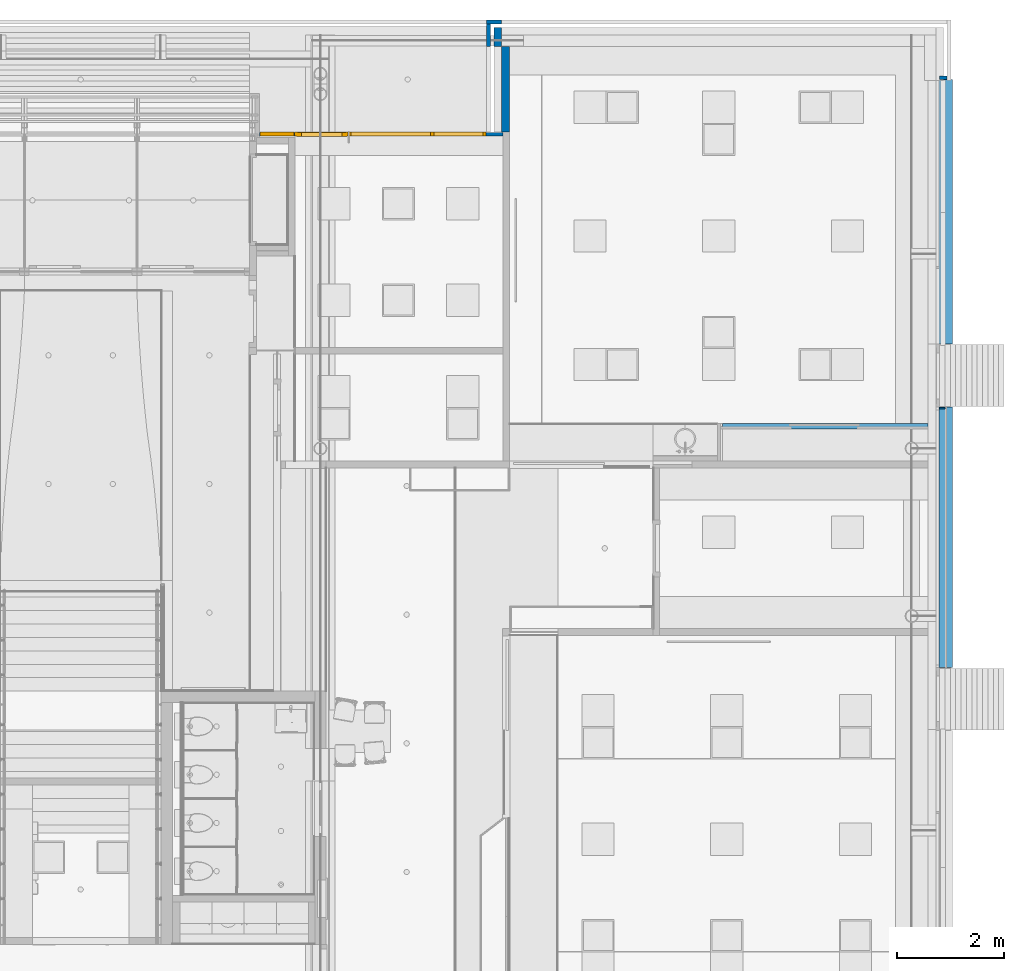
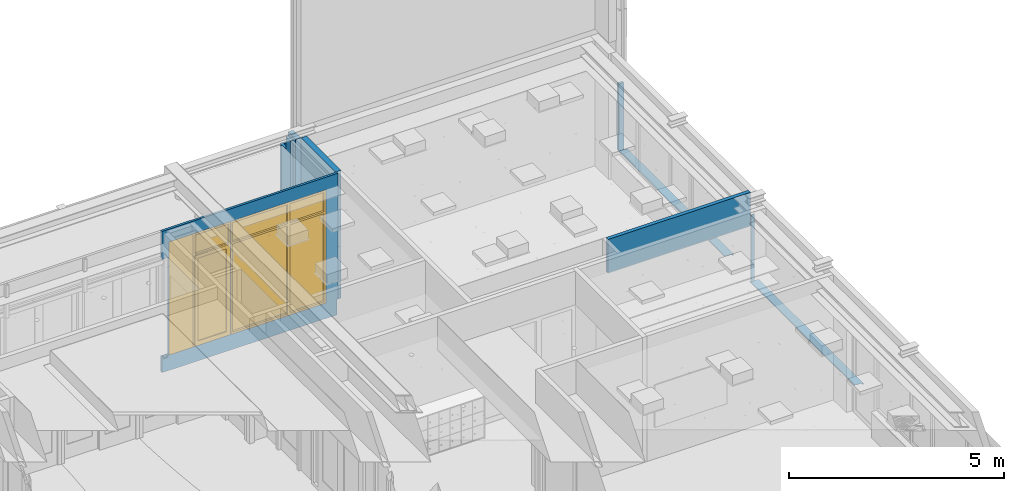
# One storey, part 85 of 347: 10 walls, 3 windows, 3 openings.
"""IFC2X3 building model written with IfcOpenShell, lengths in millimetres."""

from ifc_helpers import new_model, entity, si_unit, converted_unit, derived_unit, money_unit, direction, frame, origin_with_axes, place, context, subcontext, project, spatial, open_shell, faceted_brep, surface_model, material, type_object, element, fill, save


model = new_model("IFC2X3")

# Units and contexts
model_context = context("Model", 3, precision=0.01, world=origin_with_axes(), true_north=direction((0.0, 1.0)))
plan_context = context("Plan", 3, precision=0.01, world=origin_with_axes(), true_north=direction((0.0, 1.0)))
body_context = subcontext(model_context, "Body", "Model", "MODEL_VIEW")
ifc_project = project(units=[si_unit("LENGTHUNIT", "METRE", prefix="MILLI"), si_unit("AREAUNIT", "SQUARE_METRE"), si_unit("VOLUMEUNIT", "CUBIC_METRE"), converted_unit("PLANEANGLEUNIT", "DEGREE", entity("IfcPlaneAngleMeasure", 0.0174532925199), si_unit("PLANEANGLEUNIT", "RADIAN"), dimensions=[0, 0, 0, 0, 0, 0, 0]), money_unit("EUR"), converted_unit("TIMEUNIT", "Year", entity("IfcTimeMeasure", 31556926.0), si_unit("TIMEUNIT", "SECOND"), dimensions=[0, 0, 1, 0, 0, 0, 0]), si_unit("MASSUNIT", "GRAM", prefix="KILO"), si_unit("THERMODYNAMICTEMPERATUREUNIT", "DEGREE_CELSIUS"), si_unit("LUMINOUSINTENSITYUNIT", "LUMEN"), si_unit("ENERGYUNIT", "JOULE", prefix="MEGA"), derived_unit("THERMALCONDUCTANCEUNIT", [(si_unit("POWERUNIT", "WATT"), 1), (si_unit("LENGTHUNIT", "METRE"), -1), (si_unit("THERMODYNAMICTEMPERATUREUNIT", "KELVIN"), -1)]), derived_unit("SPECIFICHEATCAPACITYUNIT", [(si_unit("ENERGYUNIT", "JOULE"), 1), (si_unit("MASSUNIT", "GRAM", prefix="KILO"), -1), (si_unit("THERMODYNAMICTEMPERATUREUNIT", "KELVIN"), -1)]), derived_unit("MASSDENSITYUNIT", [(si_unit("MASSUNIT", "GRAM", prefix="KILO"), 1), (si_unit("VOLUMEUNIT", "CUBIC_METRE"), -1)])], contexts=[model_context, plan_context])

# Site, building, storey
site_placement = place(None, origin_with_axes())
site = spatial("IfcSite", under=ifc_project, at=site_placement, Name="Site", CompositionType="ELEMENT")
building_placement = place(site_placement, origin_with_axes())
building = spatial("IfcBuilding", under=site, at=building_placement, Name="Naam gebouw", CompositionType="ELEMENT")
storey_placement = place(building_placement, origin_with_axes())
storey = spatial("IfcBuildingStorey", under=building, at=storey_placement, Name="begane grond", CompositionType="ELEMENT", Elevation=0.0)

# Wall, openings, windows
ifc_material_1 = material(Name="31 pui/kozijn")
wall_type_1 = type_object("IfcWallType", Name="31 pui/kozijn 62", PredefinedType="NOTDEFINED")
wall_1_placement = place(storey_placement, frame((43225.0, 45153.0, -450.0), z_axis=(0.0, 0.0, 1.0), x_axis=(1.0, 0.0, 0.0)))
wall_1 = element("IfcWall", 1, at=wall_1_placement, inside=storey, type_object=wall_type_1, material=ifc_material_1, Name="21_53 wandtegels keramisch", context=body_context, shape_type="Brep", body=[
    faceted_brep([(4700.0000225, 0.0, 0.0), (4700.0000225, 0.0, 450.0), (4725.0, 0.0, 450.0), (4725.0, 0.0, 4010.0), (0.0, 0.0, 4010.0), (0.0, 0.0, 3215.0), (185.0, 0.0, 3215.0), (185.0, 0.0, 450.0), (160.0, 0.0, 450.0), (160.0, 0.0, 380.0), (5.0, 0.0, 380.0), (0.0, 0.0, 380.0), (0.0, 0.0, 0.0), (1840.00000075, 0.0, 3650.0), (1840.00000075, 0.0, 440.0), (840.0, 0.0, 440.0), (840.0, 0.0, 3650.0), (195.0, 0.0, 3650.0), (830.0, 0.0, 3650.0), (830.0, 0.0, 440.0), (195.0, 0.0, 440.0), (1855.00000075, 0.0, 440.0), (1855.00000075, 0.0, 3650.0), (4409.99991827, 0.0, 3650.0), (4409.99991827, 0.0, 440.0), (4700.0000225, 62.0, 0.0), (4700.0000225, 62.0, 450.0), (4725.0, 62.0, 450.0), (4725.0, 62.0, 4010.0), (0.0, 62.0, 4010.0), (0.0, 62.0, 3215.0), (185.0, 62.0, 3215.0), (185.0, 62.0, 450.0), (0.0, 62.0, 450.0), (0.0, 5.0, 450.0), (40.0, 5.0, 450.0), (40.0, 38.0, 450.0), (160.0, 38.0, 450.0), (160.0, 38.0, 380.0), (40.0, 38.0, 380.0), (40.0, 5.0, 380.0), (0.0, 5.0, 380.0), (0.0, 62.0, 0.0), (1840.00000075, 62.0, 3650.0), (1840.00000075, 62.0, 440.0), (840.0, 62.0, 440.0), (840.0, 62.0, 3650.0), (830.0, 62.0, 3650.0), (195.0, 62.0, 3650.0), (830.0, 62.0, 440.0), (195.0, 62.0, 440.0), (1855.00000075, 62.0, 440.0), (1855.00000075, 62.0, 3650.0), (4409.99991827, 62.0, 3650.0), (4409.99991827, 62.0, 440.0)], [[[0, 1, 2, 3, 4, 5, 6, 7, 8, 9, 10, 11, 12], [13, 14, 15, 16], [17, 18, 19, 20], [21, 22, 23, 24]], [[0, 25, 26, 1]], [[27, 2, 1, 26]], [[27, 28, 3, 2]], [[3, 28, 29, 4]], [[5, 4, 29, 30]], [[31, 6, 5, 30]], [[32, 7, 6, 31]], [[32, 33, 34, 35, 36, 37, 8, 7]], [[38, 9, 8, 37]], [[9, 38, 39, 40, 41, 11, 10]], [[33, 42, 12, 11, 41, 34]], [[0, 12, 42, 25]], [[14, 13, 43, 44]], [[15, 14, 44, 45]], [[16, 15, 45, 46]], [[13, 16, 46, 43]], [[47, 18, 17, 48]], [[49, 19, 18, 47]], [[50, 20, 19, 49]], [[48, 17, 20, 50]], [[51, 52, 22, 21]], [[52, 53, 23, 22]], [[53, 54, 24, 23]], [[54, 51, 21, 24]], [[26, 25, 42, 33, 32, 31, 30, 29, 28, 27], [43, 46, 45, 44], [49, 47, 48, 50], [51, 54, 53, 52]], [[34, 41, 40, 35]], [[39, 36, 35, 40]], [[39, 38, 37, 36]]]),
])
opening_1_placement = place(wall_1_placement, frame((1340.00000038, 0.0, 440.0), z_axis=(0.0, 0.0, 1.0), x_axis=(1.0, 0.0, 0.0)))
opening_1 = element("IfcOpeningElement", 2, at=opening_1_placement, cuts=wall_1, Name="32_merk-AR2", context=body_context, shape_type="Brep", body=[
    faceted_brep([(-500.000000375, -62.0, 0.0), (-500.000000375, -62.0, 3210.0), (-500.000000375, 134.0, 3210.0), (-500.000000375, 134.0, 0.0), (500.000000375, -62.0, 0.0), (500.000000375, -62.0, 3210.0), (500.000000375, 134.0, 3210.0), (500.000000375, 134.0, 0.0)], [[[0, 1, 2, 3]], [[0, 4, 5, 1]], [[1, 5, 6, 2]], [[3, 2, 6, 7]], [[4, 0, 3, 7]], [[5, 4, 7, 6]]]),
])
opening_2_placement = place(wall_1_placement, frame((512.5, 0.0, 440.0), z_axis=(0.0, 0.0, 1.0), x_axis=(1.0, 0.0, 0.0)))
opening_2 = element("IfcOpeningElement", 3, at=opening_2_placement, cuts=wall_1, Name="32_merk-AP", context=body_context, shape_type="Brep", body=[
    faceted_brep([(-317.5, -62.0, 0.0), (-317.5, -62.0, 3210.0), (-317.5, 134.0, 3210.0), (-317.5, 134.0, 0.0), (317.5, -62.0, 0.0), (317.5, -62.0, 3210.0), (317.5, 134.0, 3210.0), (317.5, 134.0, 0.0)], [[[0, 1, 2, 3]], [[0, 4, 5, 1]], [[1, 5, 6, 2]], [[3, 2, 6, 7]], [[4, 0, 3, 7]], [[5, 4, 7, 6]]]),
])
opening_3_placement = place(wall_1_placement, frame((3132.49995951, 0.0, 440.0), z_axis=(0.0, 0.0, 1.0), x_axis=(1.0, 0.0, 0.0)))
opening_3 = element("IfcOpeningElement", 4, at=opening_3_placement, cuts=wall_1, Name="32_merk-AR1", context=body_context, shape_type="Brep", body=[
    faceted_brep([(1277.49995876, 134.0, 0.0), (1277.49995876, 134.0, 3210.0), (1277.49995876, -62.0, 3210.0), (1277.49995876, -62.0, 0.0), (-1277.49995876, 134.0, 0.0), (-1277.49995876, 134.0, 3210.0), (-1277.49995876, -62.0, 3210.0), (-1277.49995876, -62.0, 0.0)], [[[0, 1, 2, 3]], [[0, 4, 5, 1]], [[1, 5, 6, 2]], [[3, 2, 6, 7]], [[4, 0, 3, 7]], [[5, 4, 7, 6]]]),
])
window_style_1 = type_object("IfcWindowStyle", Name="Rmeerkeuze 25", ConstructionType="NOTDEFINED", OperationType="DOUBLE_PANEL_HORIZONTAL", ParameterTakesPrecedence=False, Sizeable=False)
window_1_placement = place(opening_2_placement, frame((317.5, 0.0, 0.0), z_axis=(0.0, 0.0, 1.0), x_axis=(-1.0, 0.0, 0.0)))
window_1 = element("IfcWindow", 5, at=window_1_placement, inside=storey, type_object=window_style_1, Name="32_merk-AP", ObjectType="WINDOW", OverallHeight=3210.0, OverallWidth=635.0, context=body_context, shape_type="Brep", body=[
    faceted_brep([(54.0, -72.0, 2556.0), (54.0, 0.0, 2556.0), (54.0, 0.0, 2610.0), (54.0, -72.0, 2610.0), (54.0, -72.0, 54.0), (54.0, 0.0, 54.0), (0.0, 0.0, 54.0), (0.0, 0.0, 3156.0), (54.0, 0.0, 3156.0), (54.0, -72.0, 3156.0), (0.0, -72.0, 3156.0), (0.0, -72.0, 54.0)], [[[0, 1, 2, 3]], [[4, 5, 1, 0]], [[1, 5, 6, 7, 8, 2]], [[3, 2, 8, 9]], [[0, 3, 9, 10, 11, 4]], [[11, 6, 5, 4]], [[10, 7, 6, 11]], [[9, 8, 7, 10]]]),
    faceted_brep([(581.0, -72.0, 54.0), (581.0, 0.0, 54.0), (635.0, 0.0, 54.0), (635.0, -72.0, 54.0), (581.0, -72.0, 2556.0), (581.0, 0.0, 2556.0), (581.0, 0.0, 2610.0), (581.0, 0.0, 3156.0), (635.0, 0.0, 3156.0), (635.0, -72.0, 3156.0), (581.0, -72.0, 3156.0), (581.0, -72.0, 2610.0)], [[[0, 1, 2, 3]], [[4, 5, 1, 0]], [[1, 5, 6, 7, 8, 2]], [[3, 2, 8, 9]], [[0, 3, 9, 10, 11, 4]], [[11, 6, 5, 4]], [[10, 7, 6, 11]], [[9, 8, 7, 10]]]),
    faceted_brep([(54.0, -72.0, 2610.0), (54.0, 0.0, 2610.0), (54.0, 0.0, 2556.0), (54.0, -72.0, 2556.0), (581.0, -72.0, 2610.0), (581.0, 0.0, 2610.0), (581.0, 0.0, 2556.0), (581.0, -72.0, 2556.0)], [[[0, 1, 2, 3]], [[4, 5, 1, 0]], [[1, 5, 6, 2]], [[3, 2, 6, 7]], [[0, 3, 7, 4]], [[7, 6, 5, 4]]]),
    faceted_brep([(54.0, -72.0, 54.0), (54.0, 0.0, 54.0), (0.0, 0.0, 54.0), (0.0, -72.0, 54.0), (581.0, -72.0, 54.0), (581.0, 0.0, 54.0), (635.0, 0.0, 54.0), (635.0, 0.0, 0.0), (0.0, 0.0, 0.0), (0.0, -72.0, 0.0), (635.0, -72.0, 0.0), (635.0, -72.0, 54.0)], [[[0, 1, 2, 3]], [[4, 5, 1, 0]], [[1, 5, 6, 7, 8, 2]], [[3, 2, 8, 9]], [[0, 3, 9, 10, 11, 4]], [[11, 6, 5, 4]], [[10, 7, 6, 11]], [[9, 8, 7, 10]]]),
    faceted_brep([(581.0, -72.0, 3156.0), (581.0, 0.0, 3156.0), (635.0, 0.0, 3156.0), (635.0, -72.0, 3156.0), (54.0, -72.0, 3156.0), (54.0, 0.0, 3156.0), (0.0, 0.0, 3156.0), (0.0, 0.0, 3210.0), (635.0, 0.0, 3210.0), (635.0, -72.0, 3210.0), (0.0, -72.0, 3210.0), (0.0, -72.0, 3156.0)], [[[0, 1, 2, 3]], [[4, 5, 1, 0]], [[1, 5, 6, 7, 8, 2]], [[3, 2, 8, 9]], [[0, 3, 9, 10, 11, 4]], [[11, 6, 5, 4]], [[10, 7, 6, 11]], [[9, 8, 7, 10]]]),
    faceted_brep([(54.0, -72.0, 2610.0), (54.0, 0.0, 2610.0), (581.0, 0.0, 2610.0), (581.0, -72.0, 2610.0), (54.0, -72.0, 3156.0), (54.0, 0.0, 3156.0), (581.0, 0.0, 3156.0), (581.0, -72.0, 3156.0)], [[[0, 1, 2, 3]], [[4, 5, 1, 0]], [[1, 5, 6, 2]], [[3, 2, 6, 7]], [[0, 3, 7, 4]], [[7, 6, 5, 4]]]),
    faceted_brep([(54.0, -72.0, 54.0), (54.0, 0.0, 54.0), (581.0, 0.0, 54.0), (581.0, -72.0, 54.0), (54.0, -72.0, 2556.0), (54.0, 0.0, 2556.0), (581.0, 0.0, 2556.0), (581.0, -72.0, 2556.0)], [[[0, 1, 2, 3]], [[4, 5, 1, 0]], [[1, 5, 6, 2]], [[3, 2, 6, 7]], [[0, 3, 7, 4]], [[7, 6, 5, 4]]]),
])
fill(opening_2, window_1)
window_style_2 = type_object("IfcWindowStyle", Name="R2 bl ol 25", ConstructionType="NOTDEFINED", OperationType="USERDEFINED", ParameterTakesPrecedence=False, Sizeable=False)
window_2_placement = place(opening_3_placement, frame((1277.49995876, 0.0, 0.0), z_axis=(0.0, 0.0, 1.0), x_axis=(-1.0, 0.0, 0.0)))
window_2 = element("IfcWindow", 6, at=window_2_placement, inside=storey, type_object=window_style_2, Name="32_merk-AR1", ObjectType="WINDOW", OverallHeight=3210.0, OverallWidth=2555.0, context=body_context, shape_type="SurfaceModel", body=[
    faceted_brep([(2515.99991752, -72.0, 2556.0), (2515.99991752, -72.0, 2610.0), (2515.99991752, 0.0, 2610.0), (2515.99991752, 0.0, 2556.0), (2515.99991752, -72.0, 54.0), (2554.99991752, -72.0, 54.0), (2554.99991752, -72.0, 3156.0), (2515.99991752, -72.0, 3156.0), (2515.99991752, 0.0, 3156.0), (2554.99991752, 0.0, 3156.0), (2554.99991752, 0.0, 54.0), (2515.99991752, 0.0, 54.0)], [[[0, 1, 2, 3]], [[0, 4, 5, 6, 7, 1]], [[1, 7, 8, 2]], [[3, 2, 8, 9, 10, 11]], [[4, 0, 3, 11]], [[5, 4, 11, 10]], [[6, 5, 10, 9]], [[7, 6, 9, 8]]]),
    faceted_brep([(54.0, -72.0, 54.0), (0.0, -72.0, 54.0), (0.0, 0.0, 54.0), (54.0, 0.0, 54.0), (54.0, -72.0, 2556.0), (54.0, -72.0, 2610.0), (54.0, -72.0, 3156.0), (0.0, -72.0, 3156.0), (0.0, 0.0, 3156.0), (54.0, 0.0, 3156.0), (54.0, 0.0, 2610.0), (54.0, 0.0, 2556.0)], [[[0, 1, 2, 3]], [[0, 4, 5, 6, 7, 1]], [[1, 7, 8, 2]], [[3, 2, 8, 9, 10, 11]], [[4, 0, 3, 11]], [[5, 4, 11, 10]], [[6, 5, 10, 9]], [[7, 6, 9, 8]]]),
    faceted_brep([(1033.5, -72.0, 2610.0), (1033.5, -72.0, 2556.0), (1033.5, 0.0, 2556.0), (1033.5, 0.0, 2610.0), (1033.5, -72.0, 3156.0), (966.5, -72.0, 3156.0), (966.5, -72.0, 2610.0), (966.5, -72.0, 2556.0), (966.5, -72.0, 54.0), (1033.5, -72.0, 54.0), (1033.5, 0.0, 54.0), (966.5, 0.0, 54.0), (966.5, 0.0, 2556.0), (966.5, 0.0, 2610.0), (966.5, 0.0, 3156.0), (1033.5, 0.0, 3156.0)], [[[0, 1, 2, 3]], [[0, 4, 5, 6, 7, 8, 9, 1]], [[1, 9, 10, 2]], [[3, 2, 10, 11, 12, 13, 14, 15]], [[4, 0, 3, 15]], [[5, 4, 15, 14]], [[6, 5, 14, 13]], [[7, 6, 13, 12]], [[8, 7, 12, 11]], [[9, 8, 11, 10]]]),
    faceted_brep([(54.0, -72.0, 2556.0), (54.0, -72.0, 2610.0), (54.0, 0.0, 2610.0), (54.0, 0.0, 2556.0), (966.5, -72.0, 2556.0), (966.5, -72.0, 2610.0), (966.5, 0.0, 2610.0), (966.5, 0.0, 2556.0)], [[[0, 1, 2, 3]], [[0, 4, 5, 1]], [[1, 5, 6, 2]], [[3, 2, 6, 7]], [[4, 0, 3, 7]], [[5, 4, 7, 6]]]),
    faceted_brep([(2515.99991752, -72.0, 2610.0), (2515.99991752, -72.0, 2556.0), (2515.99991752, 0.0, 2556.0), (2515.99991752, 0.0, 2610.0), (1033.5, -72.0, 2610.0), (1033.5, -72.0, 2556.0), (1033.5, 0.0, 2556.0), (1033.5, 0.0, 2610.0)], [[[0, 1, 2, 3]], [[0, 4, 5, 1]], [[1, 5, 6, 2]], [[3, 2, 6, 7]], [[4, 0, 3, 7]], [[5, 4, 7, 6]]]),
    faceted_brep([(2515.99991752, -72.0, 54.0), (2554.99991752, -72.0, 54.0), (2554.99991752, 0.0, 54.0), (2515.99991752, 0.0, 54.0), (1033.5, -72.0, 54.0), (966.5, -72.0, 54.0), (54.0, -72.0, 54.0), (0.0, -72.0, 54.0), (0.0, -72.0, 0.0), (2554.99991752, -72.0, 0.0), (2554.99991752, 0.0, 0.0), (0.0, 0.0, 0.0), (0.0, 0.0, 54.0), (54.0, 0.0, 54.0), (966.5, 0.0, 54.0), (1033.5, 0.0, 54.0)], [[[0, 1, 2, 3]], [[0, 4, 5, 6, 7, 8, 9, 1]], [[1, 9, 10, 2]], [[3, 2, 10, 11, 12, 13, 14, 15]], [[4, 0, 3, 15]], [[5, 4, 15, 14]], [[6, 5, 14, 13]], [[7, 6, 13, 12]], [[8, 7, 12, 11]], [[9, 8, 11, 10]]]),
    faceted_brep([(1033.5, -72.0, 3156.0), (966.5, -72.0, 3156.0), (966.5, 0.0, 3156.0), (1033.5, 0.0, 3156.0), (2515.99991752, -72.0, 3156.0), (2554.99991752, -72.0, 3156.0), (2554.99991752, -72.0, 3210.0), (0.0, -72.0, 3210.0), (0.0, -72.0, 3156.0), (54.0, -72.0, 3156.0), (54.0, 0.0, 3156.0), (0.0, 0.0, 3156.0), (0.0, 0.0, 3210.0), (2554.99991752, 0.0, 3210.0), (2554.99991752, 0.0, 3156.0), (2515.99991752, 0.0, 3156.0)], [[[0, 1, 2, 3]], [[0, 4, 5, 6, 7, 8, 9, 1]], [[1, 9, 10, 2]], [[3, 2, 10, 11, 12, 13, 14, 15]], [[4, 0, 3, 15]], [[5, 4, 15, 14]], [[6, 5, 14, 13]], [[7, 6, 13, 12]], [[8, 7, 12, 11]], [[9, 8, 11, 10]]]),
    surface_model("IfcShellBasedSurfaceModel", [(2515.99991752, -72.0, 2610.0), (2515.99991752, -72.0, 3156.0), (1033.5, -72.0, 3156.0), (1033.5, -72.0, 2610.0)], [open_shell([[[0, 1, 2, 3]]])]),
    surface_model("IfcShellBasedSurfaceModel", [(2515.99991752, -52.0, 2610.0), (1033.5, -52.0, 2610.0), (1033.5, -52.0, 3156.0), (2515.99991752, -52.0, 3156.0)], [open_shell([[[0, 1, 2, 3]]])]),
    surface_model("IfcShellBasedSurfaceModel", [(966.5, -72.0, 2610.0), (966.5, -72.0, 3156.0), (54.0, -72.0, 3156.0), (54.0, -72.0, 2610.0)], [open_shell([[[0, 1, 2, 3]]])]),
    surface_model("IfcShellBasedSurfaceModel", [(966.5, -52.0, 2610.0), (54.0, -52.0, 2610.0), (54.0, -52.0, 3156.0), (966.5, -52.0, 3156.0)], [open_shell([[[0, 1, 2, 3]]])]),
    surface_model("IfcShellBasedSurfaceModel", [(2515.99991752, -72.0, 54.0), (2515.99991752, -72.0, 2556.0), (1033.5, -72.0, 2556.0), (1033.5, -72.0, 54.0)], [open_shell([[[0, 1, 2, 3]]])]),
    surface_model("IfcShellBasedSurfaceModel", [(2515.99991752, -52.0, 54.0), (1033.5, -52.0, 54.0), (1033.5, -52.0, 2556.0), (2515.99991752, -52.0, 2556.0)], [open_shell([[[0, 1, 2, 3]]])]),
    surface_model("IfcShellBasedSurfaceModel", [(966.5, -72.0, 54.0), (966.5, -72.0, 2556.0), (54.0, -72.0, 2556.0), (54.0, -72.0, 54.0)], [open_shell([[[0, 1, 2, 3]]])]),
    surface_model("IfcShellBasedSurfaceModel", [(966.5, -52.0, 54.0), (54.0, -52.0, 54.0), (54.0, -52.0, 2556.0), (966.5, -52.0, 2556.0)], [open_shell([[[0, 1, 2, 3]]])]),
])
fill(opening_3, window_2)
window_style_3 = type_object("IfcWindowStyle", Name="R1 25", ConstructionType="NOTDEFINED", OperationType="DOUBLE_PANEL_HORIZONTAL", ParameterTakesPrecedence=False, Sizeable=False)
window_3_placement = place(opening_1_placement, frame((500.000000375, 0.0, 0.0), z_axis=(0.0, 0.0, 1.0), x_axis=(-1.0, 0.0, 0.0)))
window_3 = element("IfcWindow", 7, at=window_3_placement, inside=storey, type_object=window_style_3, Name="32_merk-AR2", ObjectType="WINDOW", OverallHeight=3210.0, OverallWidth=1000.0, context=body_context, shape_type="SurfaceModel", body=[
    faceted_brep([(24.0, 0.0, 54.0), (0.0, 0.0, 54.0), (0.0, 0.0, 3156.0), (39.0, 0.0, 3156.0), (39.0, 0.0, 2610.0), (39.0, 0.0, 2571.0), (24.0, 0.0, 2571.0), (24.0, -62.0, 54.0), (39.0, -62.0, 54.0), (39.0, -72.0, 54.0), (0.0, -72.0, 54.0), (0.0, -72.0, 3156.0), (39.0, -72.0, 3156.0), (39.0, -72.0, 2610.0), (39.0, -62.0, 2571.0), (39.0, -72.0, 2556.0), (39.0, -62.0, 2556.0), (24.0, -62.0, 2571.0)], [[[0, 1, 2, 3, 4, 5, 6]], [[7, 8, 9, 10, 1, 0]], [[2, 1, 10, 11]], [[3, 2, 11, 12]], [[4, 3, 12, 13]], [[14, 5, 4, 13, 15, 16]], [[14, 17, 6, 5]], [[6, 17, 7, 0]], [[16, 8, 7, 17, 14]], [[16, 15, 9, 8]], [[13, 12, 11, 10, 9, 15]]]),
    faceted_brep([(961.000000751, 0.0, 2571.0), (946.000000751, 0.0, 2571.0), (946.000000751, 0.0, 2610.0), (946.000000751, 0.0, 3156.0), (1000.00000075, 0.0, 3156.0), (1000.00000075, 0.0, 54.0), (961.000000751, 0.0, 54.0), (961.000000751, -62.0, 2571.0), (946.000000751, -62.0, 2571.0), (946.000000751, -62.0, 2556.0), (946.000000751, -72.0, 2556.0), (946.000000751, -72.0, 2610.0), (946.000000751, -72.0, 3156.0), (1000.00000075, -72.0, 3156.0), (1000.00000075, -72.0, 54.0), (961.000000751, -62.0, 54.0), (946.000000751, -72.0, 54.0), (946.000000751, -62.0, 54.0)], [[[0, 1, 2, 3, 4, 5, 6]], [[0, 7, 8, 1]], [[8, 9, 10, 11, 2, 1]], [[3, 2, 11, 12]], [[4, 3, 12, 13]], [[5, 4, 13, 14]], [[15, 6, 5, 14, 16, 17]], [[6, 15, 7, 0]], [[17, 9, 8, 7, 15]], [[17, 16, 10, 9]], [[14, 13, 12, 11, 10, 16]]]),
    faceted_brep([(39.0, 0.0, 2571.0), (39.0, 0.0, 2610.0), (946.000000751, 0.0, 2610.0), (946.000000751, 0.0, 2571.0), (39.0, -62.0, 2571.0), (39.0, -62.0, 2556.0), (39.0, -72.0, 2556.0), (39.0, -72.0, 2610.0), (946.000000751, -72.0, 2610.0), (946.000000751, -62.0, 2571.0), (946.000000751, -72.0, 2556.0), (946.000000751, -62.0, 2556.0)], [[[0, 1, 2, 3]], [[4, 5, 6, 7, 1, 0]], [[2, 1, 7, 8]], [[9, 3, 2, 8, 10, 11]], [[9, 4, 0, 3]], [[11, 5, 4, 9]], [[11, 10, 6, 5]], [[6, 10, 8, 7]]]),
    faceted_brep([(946.000000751, -62.0, 54.0), (946.000000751, -72.0, 54.0), (1000.00000075, -72.0, 54.0), (1000.00000075, 0.0, 54.0), (961.000000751, 0.0, 54.0), (961.000000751, -62.0, 54.0), (39.0, -62.0, 54.0), (39.0, -72.0, 54.0), (0.0, -72.0, 54.0), (0.0, -72.0, 0.0), (1000.00000075, -72.0, 0.0), (1000.00000075, 0.0, 0.0), (24.0, 0.0, 39.0), (961.000000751, 0.0, 39.0), (0.0, 0.0, 0.0), (0.0, 0.0, 54.0), (24.0, 0.0, 54.0), (961.000000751, -62.0, 39.0), (24.0, -62.0, 39.0), (24.0, -62.0, 54.0)], [[[0, 1, 2, 3, 4, 5]], [[6, 7, 1, 0]], [[8, 9, 10, 2, 1, 7]], [[11, 3, 2, 10]], [[12, 13, 4, 3, 11, 14, 15, 16]], [[13, 17, 5, 4]], [[5, 17, 18, 19, 6, 0]], [[19, 16, 15, 8, 7, 6]], [[15, 14, 9, 8]], [[14, 11, 10, 9]], [[12, 18, 17, 13]], [[19, 18, 12, 16]]]),
    faceted_brep([(946.000000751, -72.0, 3156.0), (946.000000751, 0.0, 3156.0), (1000.00000075, 0.0, 3156.0), (1000.00000075, -72.0, 3156.0), (39.0, -72.0, 3156.0), (39.0, 0.0, 3156.0), (0.0, 0.0, 3156.0), (0.0, 0.0, 3210.0), (1000.00000075, 0.0, 3210.0), (1000.00000075, -72.0, 3210.0), (0.0, -72.0, 3210.0), (0.0, -72.0, 3156.0)], [[[0, 1, 2, 3]], [[4, 5, 1, 0]], [[1, 5, 6, 7, 8, 2]], [[3, 2, 8, 9]], [[0, 3, 9, 10, 11, 4]], [[11, 6, 5, 4]], [[10, 7, 6, 11]], [[9, 8, 7, 10]]]),
    surface_model("IfcShellBasedSurfaceModel", [(39.0, -72.0, 2610.0), (946.000000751, -72.0, 2610.0), (946.000000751, -72.0, 3156.0), (39.0, -72.0, 3156.0)], [open_shell([[[0, 1, 2, 3]]])]),
    surface_model("IfcShellBasedSurfaceModel", [(39.0, -52.0, 2610.0), (39.0, -52.0, 3156.0), (946.000000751, -52.0, 3156.0), (946.000000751, -52.0, 2610.0)], [open_shell([[[0, 1, 2, 3]]])]),
    faceted_brep([(114.0, -62.0, 2481.0), (114.0, 10.0, 2481.0), (24.0, 10.0, 2481.0), (24.0, -62.0, 2481.0), (114.0, -62.0, 129.0), (114.0, 10.0, 129.0), (24.0, 10.0, 129.0), (24.0, -62.0, 129.0)], [[[0, 1, 2, 3]], [[4, 5, 1, 0]], [[1, 5, 6, 2]], [[3, 2, 6, 7]], [[0, 3, 7, 4]], [[7, 6, 5, 4]]]),
    faceted_brep([(871.000000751, -62.0, 129.0), (871.000000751, 10.0, 129.0), (961.000000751, 10.0, 129.0), (961.000000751, -62.0, 129.0), (871.000000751, -62.0, 2481.0), (871.000000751, 10.0, 2481.0), (961.000000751, 10.0, 2481.0), (961.000000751, -62.0, 2481.0)], [[[0, 1, 2, 3]], [[4, 5, 1, 0]], [[1, 5, 6, 2]], [[3, 2, 6, 7]], [[0, 3, 7, 4]], [[7, 6, 5, 4]]]),
    faceted_brep([(961.000000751, -62.0, 39.0), (961.000000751, 10.0, 39.0), (961.000000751, 10.0, 129.0), (961.000000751, -62.0, 129.0), (24.0, -62.0, 39.0), (24.0, 10.0, 39.0), (24.0, 10.0, 129.0), (114.0, 10.0, 129.0), (871.000000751, 10.0, 129.0), (871.000000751, -62.0, 129.0), (114.0, -62.0, 129.0), (24.0, -62.0, 129.0)], [[[0, 1, 2, 3]], [[4, 5, 1, 0]], [[1, 5, 6, 7, 8, 2]], [[3, 2, 8, 9]], [[0, 3, 9, 10, 11, 4]], [[11, 6, 5, 4]], [[10, 7, 6, 11]], [[9, 8, 7, 10]]]),
    faceted_brep([(24.0, -62.0, 2571.0), (24.0, 10.0, 2571.0), (24.0, 10.0, 2481.0), (24.0, -62.0, 2481.0), (961.000000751, -62.0, 2571.0), (961.000000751, 10.0, 2571.0), (961.000000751, 10.0, 2481.0), (871.000000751, 10.0, 2481.0), (114.0, 10.0, 2481.0), (114.0, -62.0, 2481.0), (871.000000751, -62.0, 2481.0), (961.000000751, -62.0, 2481.0)], [[[0, 1, 2, 3]], [[4, 5, 1, 0]], [[1, 5, 6, 7, 8, 2]], [[3, 2, 8, 9]], [[0, 3, 9, 10, 11, 4]], [[11, 6, 5, 4]], [[10, 7, 6, 11]], [[9, 8, 7, 10]]]),
    surface_model("IfcShellBasedSurfaceModel", [(114.0, -36.0, 129.0), (871.000000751, -36.0, 129.0), (871.000000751, -36.0, 2481.0), (114.0, -36.0, 2481.0)], [open_shell([[[0, 1, 2, 3]]])]),
    surface_model("IfcShellBasedSurfaceModel", [(114.0, -16.0, 129.0), (114.0, -16.0, 2481.0), (871.000000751, -16.0, 2481.0), (871.000000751, -16.0, 129.0)], [open_shell([[[0, 1, 2, 3]]])]),
])
fill(opening_1, window_3)

# Walls
ifc_material_2 = material(Name="Metaal - Aluminium beige")
wall_type_2 = type_object("IfcWallType", Name="32 waterslag (negge 210mm) 252 x 90", PredefinedType="NOTDEFINED")
wall_2_placement = place(storey_placement, frame((56097.0000264, 35237.5, 720.0), z_axis=(0.0, 0.0, 1.0), x_axis=(3.67236470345e-09, 1.0, 0.0)))
element("IfcWall", 8, at=wall_2_placement, inside=storey, type_object=wall_type_2, material=ifc_material_2, Name="21_31 waterslag", context=body_context, shape_type="Brep", body=[
    faceted_brep([(-5.14077669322e-08, 13.9991300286, -16.8402038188), (4859.5000195, 13.9991478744, -16.8402038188), (4859.50002042, -235.999877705, -36.8748605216), (8.66677396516e-07, -235.999895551, -36.8748605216), (-5.14077669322e-08, 13.9991300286, 10.0000166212), (4859.5000195, 13.9991478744, 10.0000166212), (4859.50001951, 12.0001413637, 10.0000166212), (4859.50001951, 11.9992852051, -15.0003939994), (4859.50002043, -237.999883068, -35.0099705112), (4859.50002043, -237.999883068, -80.009969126), (4859.50002037, -222.999883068, -80.009969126), (4859.50002037, -222.999883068, -78.0099675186), (4859.50002042, -235.999877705, -78.0099675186), (8.66677396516e-07, -235.999895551, -78.0099675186), (8.189360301e-07, -222.999900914, -78.0099675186), (8.189360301e-07, -222.999900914, -80.009969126), (8.74024408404e-07, -237.999900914, -80.009969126), (8.74024408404e-07, -237.999900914, -35.0099705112), (-4.40678604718e-08, 11.9992673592, -15.0003939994), (-4.40678604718e-08, 12.0001235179, 10.0000166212)], [[[0, 1, 2, 3]], [[4, 5, 1, 0]], [[2, 1, 5, 6, 7, 8, 9, 10, 11, 12]], [[3, 2, 12, 13]], [[4, 0, 3, 13, 14, 15, 16, 17, 18, 19]], [[19, 6, 5, 4]], [[18, 7, 6, 19]], [[17, 8, 7, 18]], [[16, 9, 8, 17]], [[15, 10, 9, 16]], [[14, 11, 10, 15]], [[13, 12, 11, 14]]]),
])
wall_3_placement = place(storey_placement, frame((56097.0000048, 41274.0000187, 720.0), z_axis=(0.0, 0.0, 1.0), x_axis=(-3.71949316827e-09, 1.0, 0.0)))
element("IfcWall", 9, at=wall_3_placement, inside=storey, type_object=wall_type_2, material=ifc_material_2, Name="21_31 waterslag", context=body_context, shape_type="Brep", body=[
    faceted_brep([(5.20685716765e-08, 13.9991300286, -16.8402038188), (4933.00000041, 13.9991116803, -16.8402038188), (4932.99999948, -235.999913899, -36.8748605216), (-8.77797390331e-07, -235.999895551, -36.8748605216), (5.20685716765e-08, 13.9991300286, 10.0000166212), (4933.00000041, 13.9991116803, 10.0000166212), (4933.0000004, 12.0001051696, 10.0000166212), (4933.0000004, 11.999249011, -15.0003939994), (4932.99999948, -237.999919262, -35.0099705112), (4932.99999948, -237.999919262, -80.009969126), (4932.99999953, -222.999919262, -80.009969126), (4932.99999953, -222.999919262, -78.0099675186), (4932.99999948, -235.999913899, -78.0099675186), (-8.77797390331e-07, -235.999895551, -78.0099675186), (-8.29444957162e-07, -222.999900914, -78.0099675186), (-8.29444957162e-07, -222.999900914, -80.009969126), (-8.85236772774e-07, -237.999900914, -80.009969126), (-8.85236772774e-07, -237.999900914, -35.0099705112), (4.46291892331e-08, 11.9992673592, -15.0003939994), (4.46362946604e-08, 12.0001235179, 10.0000166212)], [[[0, 1, 2, 3]], [[4, 5, 1, 0]], [[2, 1, 5, 6, 7, 8, 9, 10, 11, 12]], [[3, 2, 12, 13]], [[4, 0, 3, 13, 14, 15, 16, 17, 18, 19]], [[19, 6, 5, 4]], [[18, 7, 6, 19]], [[17, 8, 7, 18]], [[16, 9, 8, 17]], [[15, 10, 9, 16]], [[14, 11, 10, 15]], [[13, 12, 11, 14]]]),
])
ifc_material_3 = material(Name="Isolatie - Kunststof hard")
wall_type_3 = type_object("IfcWallType", Name="Isolatie - Kunststof hard 140", PredefinedType="NOTDEFINED")
wall_4_placement = place(storey_placement, frame((47644.9999183, 47177.0000289, -450.0), z_axis=(0.0, 0.0, 1.0), x_axis=(0.0, -1.0, 0.0)))
element("IfcWall", 10, at=wall_4_placement, inside=storey, type_object=wall_type_3, material=ifc_material_3, Name="21_22 betonwand", context=body_context, shape_type="Brep", body=[
    faceted_brep([(140.000029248, 280.0, 4010.0), (140.000029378, 140.0, 4010.0), (350.000034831, 140.0, 4010.0), (350.000034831, 280.0, 4010.0), (140.000028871, 280.0, 4020.12726091), (140.000028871, 140.0, 4020.12726091), (350.000034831, 140.0, 0.0), (0.0, 140.0, 4020.12726091), (0.0, 140.0, 0.0), (350.000034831, 280.0, 0.0), (0.0, 280.0, 0.0), (0.0, 280.0, 4020.12726091)], [[[0, 1, 2, 3]], [[1, 0, 4, 5]], [[6, 2, 1, 5, 7, 8]], [[9, 3, 2, 6]], [[0, 3, 9, 10, 11, 4]], [[7, 5, 4, 11]], [[8, 7, 11, 10]], [[6, 8, 10, 9]]]),
])
ifc_material_4 = material(Name="Steen - Baksteen")
wall_type_4 = type_object("IfcWallType", Name="Steen - Baksteen 70", PredefinedType="NOTDEFINED")
wall_5_placement = place(storey_placement, frame((47644.9999183, 47317.0000219, -450.0), z_axis=(0.0, 0.0, 1.0), x_axis=(0.0, -1.0, 0.0)))
element("IfcWall", 11, at=wall_5_placement, inside=storey, type_object=wall_type_4, material=ifc_material_4, Name="21_22 betonwand", context=body_context, shape_type="Brep", body=[
    faceted_brep([(280.000022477, 70.0, 4010.0), (280.000022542, 0.0, 4010.0), (490.000027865, 0.0, 4010.0), (490.000027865, 70.0, 4010.0), (280.0, 0.0, 3660.0), (280.0, 70.0, 3660.0), (490.000027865, 0.0, 0.0), (-8.1729865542e-05, 0.0, 3659.99999762), (0.0, 0.0, 3650.0), (70.0, 0.0, 3650.0), (70.0, 0.0, 0.0), (490.000027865, 70.0, 0.0), (70.0, 70.0, 0.0), (70.0, 70.0, 3650.0), (0.0, 70.0, 3650.0), (-8.1729865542e-05, 70.0, 3659.99999762)], [[[0, 1, 2, 3]], [[4, 1, 0, 5]], [[6, 2, 1, 4, 7, 8, 9, 10]], [[11, 3, 2, 6]], [[0, 3, 11, 12, 13, 14, 15, 5]], [[15, 7, 4, 5]], [[7, 15, 14, 8]], [[13, 9, 8, 14]], [[10, 9, 13, 12]], [[11, 6, 10, 12]]]),
])
wall_6_placement = place(storey_placement, frame((47925.0000225, 47317.0000219, -450.0), z_axis=(0.0, 0.0, 1.0), x_axis=(-1.0, 0.0, 0.0)))
element("IfcWall", 12, at=wall_6_placement, inside=storey, type_object=wall_type_4, material=ifc_material_4, Name="21_21 betonwand", context=body_context, shape_type="Brep", body=[
    faceted_brep([(280.000104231, 0.0, 0.0), (280.000104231, -7.16689214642e-05, 3650.0), (210.000104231, -7.16689214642e-05, 3650.0), (210.000104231, -7.18652728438e-05, 3659.99999762), (0.0, 0.0, 3659.99999762), (0.0, 0.0, 0.0), (280.000104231, 70.0, 0.0), (280.000104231, 70.0, 3650.0), (210.000104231, 70.0, 3650.0), (210.000104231, 70.0, 3659.99999762), (0.0, 70.0, 3659.99999762), (0.0, 70.0, 0.0)], [[[0, 1, 2, 3, 4, 5]], [[6, 7, 1, 0]], [[8, 2, 1, 7]], [[8, 9, 3, 2]], [[4, 3, 9, 10]], [[5, 4, 10, 11]], [[5, 11, 6, 0]], [[9, 8, 7, 6, 11, 10]]]),
])
wall_7_placement = place(storey_placement, frame((56235.0001112, 46207.0000325, 698.236730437), z_axis=(0.0, 0.0, 1.0), x_axis=(-1.0, 0.0, 0.0)))
element("IfcWall", 13, at=wall_7_placement, inside=storey, type_object=wall_type_4, material=ifc_material_4, Name="21_21 betonwand", context=body_context, shape_type="Brep", body=[
    faceted_brep([(0.0, -70.0, 1901.76326956), (138.000124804, -70.0, 1901.76326956), (138.000124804, 0.0, 1901.76326956), (0.0, 0.0, 1901.76326956), (0.0, -70.0, 0.0), (138.000124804, -70.0, 0.0), (138.000124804, 0.0, 0.0), (0.0, 0.0, 0.0)], [[[0, 1, 2, 3]], [[4, 5, 1, 0]], [[2, 1, 5, 6]], [[3, 2, 6, 7]], [[4, 0, 3, 7]], [[7, 6, 5, 4]]]),
])
ifc_material_5 = material(Name="ALG - LICHTE SCHEIDINGSWAND")
wall_type_5 = type_object("IfcWallType", Name="ALG LSW 100 kast 100", PredefinedType="NOTDEFINED")
wall_8_placement = place(storey_placement, frame((51950.0, 39787.5, 2600.0), z_axis=(0.0, 0.0, 1.0), x_axis=(1.0, 0.0, 0.0)))
element("IfcWall", 14, at=wall_8_placement, inside=storey, type_object=wall_type_5, material=ifc_material_5, Name="22_GF 125 ECO DGS/2.75.3A", context=body_context, shape_type="Brep", body=[
    faceted_brep([(99.9999999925, -100.000000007, 960.000000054), (3925.00005357, -100.000000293, 960.0), (3925.00005362, -2.92999402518e-07, 960.0), (100.0, -7.46780415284e-09, 960.000000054), (3925.00005045, -100.000000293, -2.14525095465e-05), (99.9999999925, -100.000000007, -1.13637543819e-06), (3925.00005055, -2.92999402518e-07, -2.14525095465e-05), (100.0, -7.46780415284e-09, -1.13637543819e-06)], [[[0, 1, 2, 3]], [[4, 1, 0, 5]], [[6, 2, 1, 4]], [[3, 2, 6, 7]], [[5, 0, 3, 7]], [[7, 6, 4, 5]]]),
])
ifc_material_6 = material(Name="Steen - Kalkzandsteen C")
wall_type_6 = type_object("IfcWallType", Name="Steen - Kalkzandsteen C 150", PredefinedType="NOTDEFINED")
wall_9_placement = place(storey_placement, frame((48075.0, 45225.0, -80.0), z_axis=(0.0, 0.0, 1.0), x_axis=(0.0, 1.0, 0.0)))
element("IfcWall", 15, at=wall_9_placement, inside=storey, type_object=wall_type_6, material=ifc_material_6, Name="22_GF 125 ECO DGS/2.75.2A", context=body_context, shape_type="Brep", body=[
    faceted_brep([(0.0, 0.0, 3640.0), (0.0, 0.0, 10.0), (1601.99999404, 0.0, 10.0), (1602.0000497, 0.0, 3639.99999902), (0.0, 150.0, 3640.0), (0.0, 149.999977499, 10.0), (1601.99999404, 149.999977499, 10.0), (1602.0000497, 149.999977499, 3639.99999902)], [[[0, 1, 2, 3]], [[4, 5, 1, 0]], [[5, 6, 2, 1]], [[3, 2, 6, 7]], [[4, 0, 3, 7]], [[7, 6, 5, 4]]]),
])
ifc_material_7 = material(Name="24 Hout gevelbekleding Lariks")
wall_type_7 = type_object("IfcWallType", Name="24 Hout gevelbekleding Lariks 25", PredefinedType="NOTDEFINED")
wall_10_placement = place(storey_placement, frame((56200.0002217, 40087.0000193, 698.236730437), z_axis=(0.0, 0.0, 1.0), x_axis=(-1.0, 0.0, 0.0)))
element("IfcWall", 16, at=wall_10_placement, inside=storey, type_object=wall_type_7, material=ifc_material_7, Name="21_22 betonwand", context=body_context, shape_type="Brep", body=[
    faceted_brep([(0.0, 25.0, 0.0), (103.000177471, 25.0, 0.0), (103.000177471, 0.0, 0.0), (0.0, 0.0, 0.0), (0.0, 25.0, 1901.76326956), (103.000177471, 25.0, 1901.76326956), (103.000177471, 0.0, 1901.76326956), (0.0, 0.0, 1901.76326956)], [[[0, 1, 2, 3]], [[4, 5, 1, 0]], [[2, 1, 5, 6]], [[3, 2, 6, 7]], [[4, 0, 3, 7]], [[7, 6, 5, 4]]]),
])

save(model, "model.ifc")
